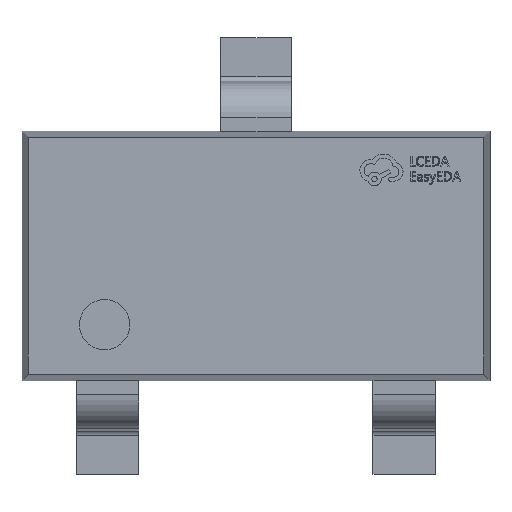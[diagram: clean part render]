
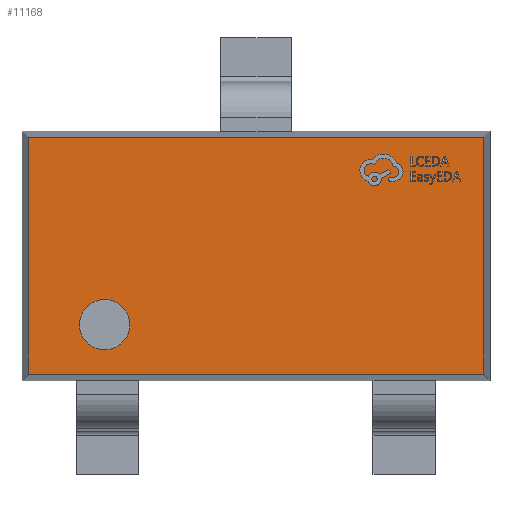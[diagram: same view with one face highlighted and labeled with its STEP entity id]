
A CAD part, top view. The second image highlights one B-rep face of the part: STEP entity #11168.
In plain terms, the highlighted planar face has unit normal (0, 0, 1).
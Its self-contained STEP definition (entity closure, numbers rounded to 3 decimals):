
#134 = VECTOR ( 'NONE', #15440, 1000. ) ;
#390 = VERTEX_POINT ( 'NONE', #12390 ) ;
#400 = EDGE_CURVE ( 'NONE', #3657, #13502, #14944, .T. ) ;
#805 = DIRECTION ( 'NONE',  ( 0., 0., 1. ) ) ;
#1022 = CARTESIAN_POINT ( 'NONE',  ( 1.459, -0.759, 0.59 ) ) ;
#1044 = ORIENTED_EDGE ( 'NONE', *, *, #4401, .F. ) ;
#1329 = CARTESIAN_POINT ( 'NONE',  ( -1.459, -0.759, 0.59 ) ) ;
#1507 = PLANE ( 'NONE',  #8849 ) ;
#1751 = AXIS2_PLACEMENT_3D ( 'NONE', #10128, #15463, #11702 ) ;
#2115 = LINE ( 'NONE', #8912, #11605 ) ;
#2249 = VECTOR ( 'NONE', #7002, 1000. ) ;
#2290 = CARTESIAN_POINT ( 'NONE',  ( -0.97, -0.443, 0.59 ) ) ;
#2922 = ORIENTED_EDGE ( 'NONE', *, *, #10096, .T. ) ;
#3585 = AXIS2_PLACEMENT_3D ( 'NONE', #2290, #805, #9968 ) ;
#3657 = VERTEX_POINT ( 'NONE', #1329 ) ;
#4092 = FACE_OUTER_BOUND ( 'NONE', #15158, .T. ) ;
#4208 = ORIENTED_EDGE ( 'NONE', *, *, #7782, .T. ) ;
#4401 = EDGE_CURVE ( 'NONE', #6383, #5541, #16346, .T. ) ;
#4520 = CARTESIAN_POINT ( 'NONE',  ( -1.131, -0.443, 0.59 ) ) ;
#5350 = LINE ( 'NONE', #6394, #14007 ) ;
#5541 = VERTEX_POINT ( 'NONE', #10916 ) ;
#6383 = VERTEX_POINT ( 'NONE', #4520 ) ;
#6394 = CARTESIAN_POINT ( 'NONE',  ( -1.459, 0.8, 0.59 ) ) ;
#6666 = VERTEX_POINT ( 'NONE', #14548 ) ;
#7002 = DIRECTION ( 'NONE',  ( 1., 0., 0. ) ) ;
#7270 = CIRCLE ( 'NONE', #1751, 0.161 ) ;
#7677 = EDGE_CURVE ( 'NONE', #13502, #390, #14067, .T. ) ;
#7782 = EDGE_CURVE ( 'NONE', #6666, #3657, #5350, .T. ) ;
#8193 = EDGE_CURVE ( 'NONE', #5541, #6383, #7270, .T. ) ;
#8220 = DIRECTION ( 'NONE',  ( 1., 0., 0. ) ) ;
#8281 = CARTESIAN_POINT ( 'NONE',  ( -1.5, -0.759, 0.59 ) ) ;
#8849 = AXIS2_PLACEMENT_3D ( 'NONE', #12080, #9361, #8220 ) ;
#8912 = CARTESIAN_POINT ( 'NONE',  ( -1.5, 0.759, 0.59 ) ) ;
#9361 = DIRECTION ( 'NONE',  ( 0., 0., 1. ) ) ;
#9496 = ORIENTED_EDGE ( 'NONE', *, *, #7677, .T. ) ;
#9968 = DIRECTION ( 'NONE',  ( 1., 0., 0. ) ) ;
#10096 = EDGE_CURVE ( 'NONE', #390, #6666, #2115, .T. ) ;
#10128 = CARTESIAN_POINT ( 'NONE',  ( -0.97, -0.443, 0.59 ) ) ;
#10916 = CARTESIAN_POINT ( 'NONE',  ( -0.809, -0.443, 0.59 ) ) ;
#11168 = ADVANCED_FACE ( 'NONE', ( #12244, #4092 ), #1507, .T. ) ;
#11284 = DIRECTION ( 'NONE',  ( -1., 0., 0. ) ) ;
#11605 = VECTOR ( 'NONE', #11284, 1000. ) ;
#11701 = ORIENTED_EDGE ( 'NONE', *, *, #8193, .F. ) ;
#11702 = DIRECTION ( 'NONE',  ( 1., 0., 0. ) ) ;
#12080 = CARTESIAN_POINT ( 'NONE',  ( 0., 0., 0.59 ) ) ;
#12244 = FACE_BOUND ( 'NONE', #14175, .T. ) ;
#12311 = ORIENTED_EDGE ( 'NONE', *, *, #400, .T. ) ;
#12390 = CARTESIAN_POINT ( 'NONE',  ( 1.459, 0.759, 0.59 ) ) ;
#13502 = VERTEX_POINT ( 'NONE', #1022 ) ;
#14007 = VECTOR ( 'NONE', #15693, 1000. ) ;
#14067 = LINE ( 'NONE', #15612, #134 ) ;
#14175 = EDGE_LOOP ( 'NONE', ( #11701, #1044 ) ) ;
#14548 = CARTESIAN_POINT ( 'NONE',  ( -1.459, 0.759, 0.59 ) ) ;
#14944 = LINE ( 'NONE', #8281, #2249 ) ;
#15158 = EDGE_LOOP ( 'NONE', ( #9496, #2922, #4208, #12311 ) ) ;
#15440 = DIRECTION ( 'NONE',  ( 0., 1., 0. ) ) ;
#15463 = DIRECTION ( 'NONE',  ( 0., 0., 1. ) ) ;
#15612 = CARTESIAN_POINT ( 'NONE',  ( 1.459, 0.8, 0.59 ) ) ;
#15693 = DIRECTION ( 'NONE',  ( 0., -1., 0. ) ) ;
#16346 = CIRCLE ( 'NONE', #3585, 0.161 ) ;
